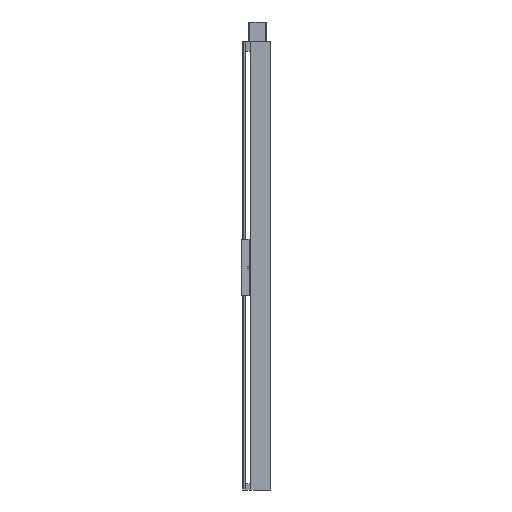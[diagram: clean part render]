
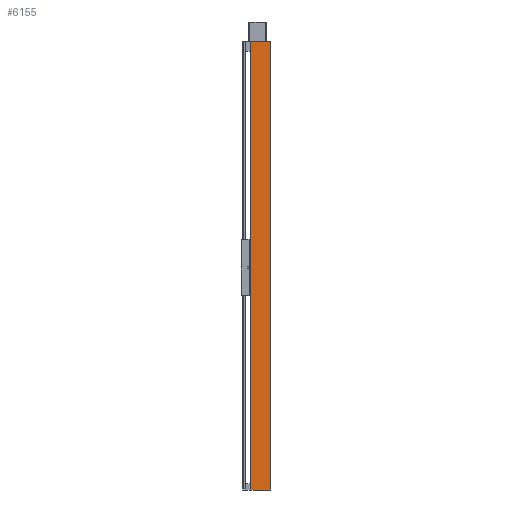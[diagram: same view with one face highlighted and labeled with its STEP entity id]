
A CAD part, left-side view. The second image highlights one B-rep face of the part: STEP entity #6155.
In plain terms, the highlighted planar face has unit normal (-1, 0, 0).
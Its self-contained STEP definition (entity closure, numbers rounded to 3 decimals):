
#1937=CARTESIAN_POINT('',(-68.,65.5,1445.));
#1938=VERTEX_POINT('',#1937);
#1946=CARTESIAN_POINT('',(-68.0,0.5,1445.));
#1947=VERTEX_POINT('',#1946);
#1948=CARTESIAN_POINT('',(-68.0,0.5,1445.));
#1949=DIRECTION('',(0.0,1.0,0.0));
#1950=VECTOR('',#1949,65.0);
#1951=LINE('',#1948,#1950);
#1952=EDGE_CURVE('',#1947,#1938,#1951,.T.);
#5386=CARTESIAN_POINT('',(-68.0,0.5,-20.0));
#5387=VERTEX_POINT('',#5386);
#5396=CARTESIAN_POINT('',(-68.,65.5,-20.0));
#5397=VERTEX_POINT('',#5396);
#5398=CARTESIAN_POINT('',(-68.,65.5,-20.0));
#5399=DIRECTION('',(0.0,-1.0,0.0));
#5400=VECTOR('',#5399,65.0);
#5401=LINE('',#5398,#5400);
#5402=EDGE_CURVE('',#5397,#5387,#5401,.T.);
#6104=CARTESIAN_POINT('',(-68.0,0.5,-20.0));
#6105=DIRECTION('',(0.0,0.0,1.0));
#6106=VECTOR('',#6105,1465.);
#6107=LINE('',#6104,#6106);
#6108=EDGE_CURVE('',#5387,#1947,#6107,.T.);
#6139=CARTESIAN_POINT('',(-68.0,0.5,0.0));
#6140=DIRECTION('',(-1.0,0.0,0.0));
#6141=DIRECTION('',(0.0,0.0,1.0));
#6142=AXIS2_PLACEMENT_3D('',#6139,#6140,#6141);
#6143=PLANE('',#6142);
#6144=CARTESIAN_POINT('',(-68.,65.5,-20.0));
#6145=DIRECTION('',(0.0,0.0,1.0));
#6146=VECTOR('',#6145,1465.);
#6147=LINE('',#6144,#6146);
#6148=EDGE_CURVE('',#5397,#1938,#6147,.T.);
#6149=ORIENTED_EDGE('',*,*,#6148,.F.);
#6150=ORIENTED_EDGE('',*,*,#5402,.T.);
#6151=ORIENTED_EDGE('',*,*,#6108,.T.);
#6152=ORIENTED_EDGE('',*,*,#1952,.T.);
#6153=EDGE_LOOP('',(#6149,#6150,#6151,#6152));
#6154=FACE_OUTER_BOUND('',#6153,.T.);
#6155=ADVANCED_FACE('',(#6154),#6143,.T.);
